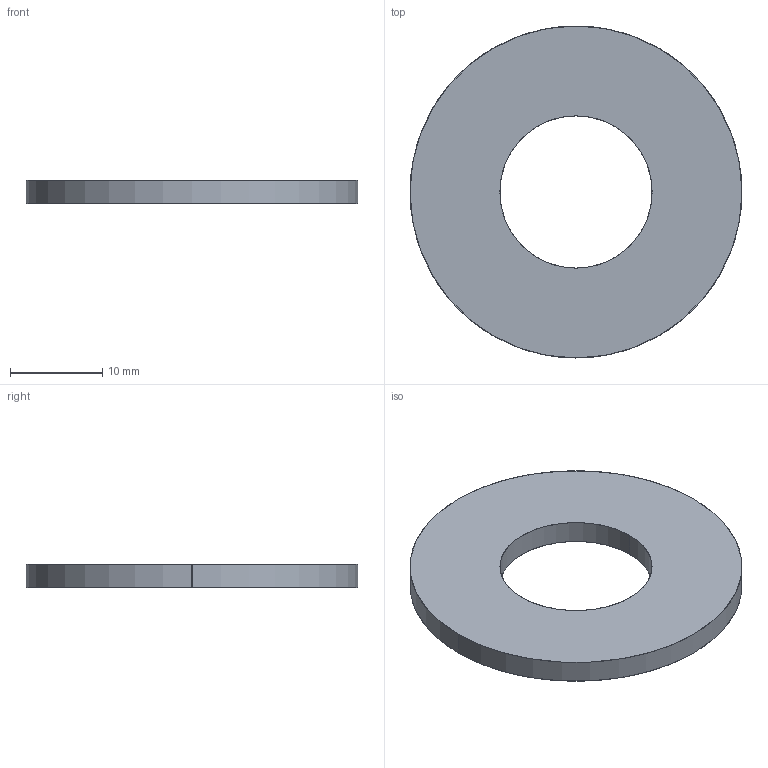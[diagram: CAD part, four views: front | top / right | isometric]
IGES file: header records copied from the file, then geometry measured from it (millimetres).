
Start section: SolidWorks IGES file using analytic representation for surfaces
Global section: file name: C:\Users\liam_\OneDrive\Desktop\Work\Mat Davis Pending 20181125\automotion\P SERIES\P0333.A4_v2\P0333.A4_v2_20181217_IGES\P0333.160-036-A4.igs; native system: SolidWorks 2017; preprocessor: SolidWorks 2017; author: liam_; date: 181217.190936; units: millimetre
Bounding box: 36 x 36 x 2.5 mm (x, y, z)
Surface area: 2020.4 mm2 (no closed solid volume)
Topology: 0 solids, 0 shells, 6 faces, 208 edges, 208 vertices
Faces by surface type: revolution 4, bspline 2
